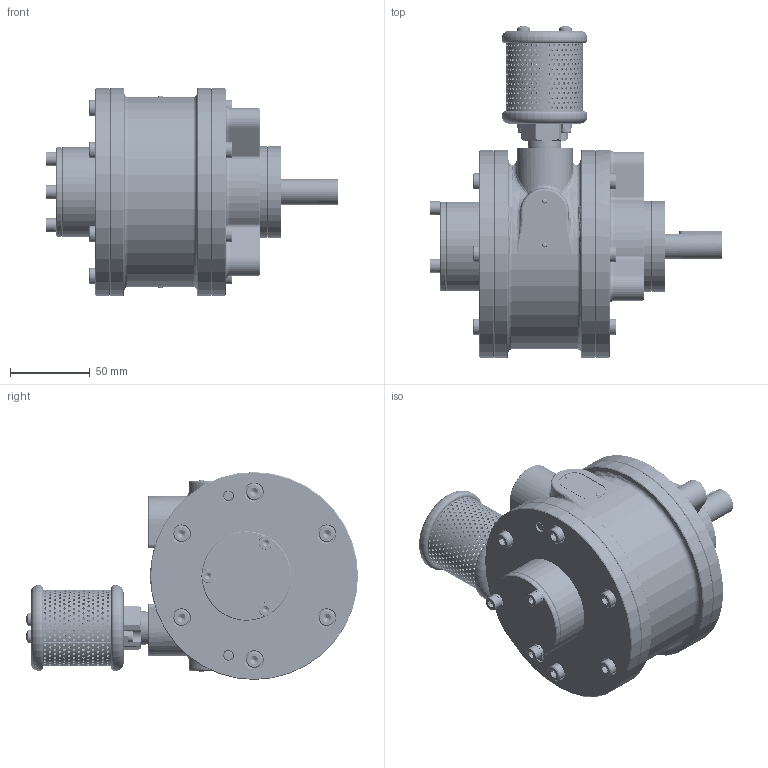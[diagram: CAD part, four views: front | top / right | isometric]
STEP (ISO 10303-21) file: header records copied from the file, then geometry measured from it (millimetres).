
FILE_DESCRIPTION (( 'STEP AP214' ), '1' );
FILE_NAME ('6VML-SGI (22-04-26).STEP', '2026-04-22T11:49:34', ( '' ), ( '' ), 'SwSTEP 2.0', 'SolidWorks 2017', '' );
FILE_SCHEMA (( 'AUTOMOTIVE_DESIGN' ));
Length unit declared in the file: millimetre
Products named in the file (2): 6VML-SGI (22-04-26)
Bounding box: 183.15 x 207.72 x 130 mm (x, y, z)
Volume: 695721.4 mm3; surface area: 222816.5 mm2
Topology: 52 solids, 52 shells, 4042 faces, 10361 edges, 6360 vertices
Faces by surface type: cylinder 2257, cone 938, plane 645, torus 146, bspline 32, sphere 24
Entity records: 210272 total; most frequent: CARTESIAN_POINT 70514, ORIENTED_EDGE 20446, DIRECTION 17473, EDGE_CURVE 10223, AXIS2_PLACEMENT_3D 6682, VERTEX_POINT 6356, EDGE_LOOP 5683, VECTOR 4109
